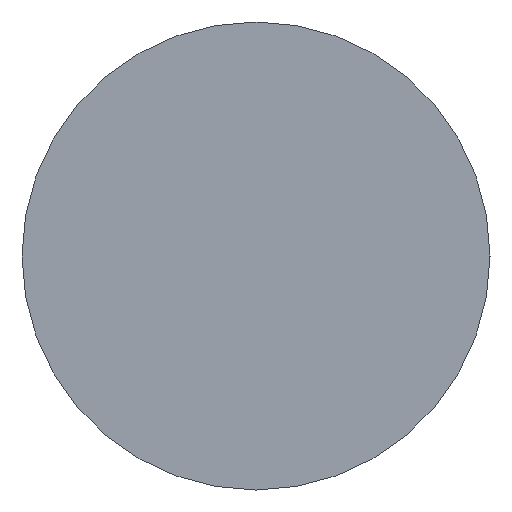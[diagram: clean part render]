
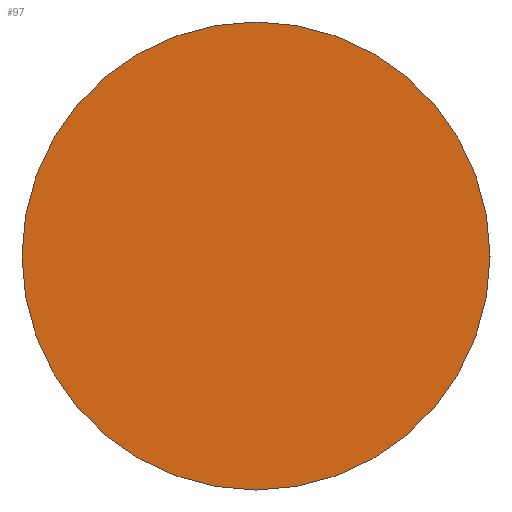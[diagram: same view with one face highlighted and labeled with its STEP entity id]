
A CAD part, left-side view. The second image highlights one B-rep face of the part: STEP entity #97.
In plain terms, the highlighted planar face has unit normal (-1, 0, 0).
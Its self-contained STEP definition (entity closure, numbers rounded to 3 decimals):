
#5 = DIRECTION ( 'NONE',  ( -1., 0., 0. ) ) ;
#13 = CARTESIAN_POINT ( 'NONE',  ( 0., 0., 0. ) ) ;
#80 = ORIENTED_EDGE ( 'NONE', *, *, #152, .T. ) ;
#86 = CIRCLE ( 'NONE', #283, 15.5 ) ;
#90 = AXIS2_PLACEMENT_3D ( 'NONE', #227, #378, #272 ) ;
#97 = ADVANCED_FACE ( 'NONE', ( #270 ), #124, .F. ) ;
#116 = ORIENTED_EDGE ( 'NONE', *, *, #253, .T. ) ;
#122 = DIRECTION ( 'NONE',  ( 0., 0., -1. ) ) ;
#124 = PLANE ( 'NONE',  #611 ) ;
#136 = DIRECTION ( 'NONE',  ( 1., 0., 0. ) ) ;
#152 = EDGE_CURVE ( 'NONE', #294, #593, #507, .T. ) ;
#154 = DIRECTION ( 'NONE',  ( 0., 0., 1. ) ) ;
#227 = CARTESIAN_POINT ( 'NONE',  ( 0., 0., 0. ) ) ;
#253 = EDGE_CURVE ( 'NONE', #593, #294, #86, .T. ) ;
#270 = FACE_OUTER_BOUND ( 'NONE', #504, .T. ) ;
#272 = DIRECTION ( 'NONE',  ( 0., 0., 1. ) ) ;
#283 = AXIS2_PLACEMENT_3D ( 'NONE', #13, #5, #154 ) ;
#294 = VERTEX_POINT ( 'NONE', #640 ) ;
#378 = DIRECTION ( 'NONE',  ( -1., 0., 0. ) ) ;
#382 = CARTESIAN_POINT ( 'NONE',  ( 0., 0., 0. ) ) ;
#440 = CARTESIAN_POINT ( 'NONE',  ( 0., 0., 15.5 ) ) ;
#504 = EDGE_LOOP ( 'NONE', ( #116, #80 ) ) ;
#507 = CIRCLE ( 'NONE', #90, 15.5 ) ;
#593 = VERTEX_POINT ( 'NONE', #440 ) ;
#611 = AXIS2_PLACEMENT_3D ( 'NONE', #382, #136, #122 ) ;
#640 = CARTESIAN_POINT ( 'NONE',  ( 0., 0., -15.5 ) ) ;
